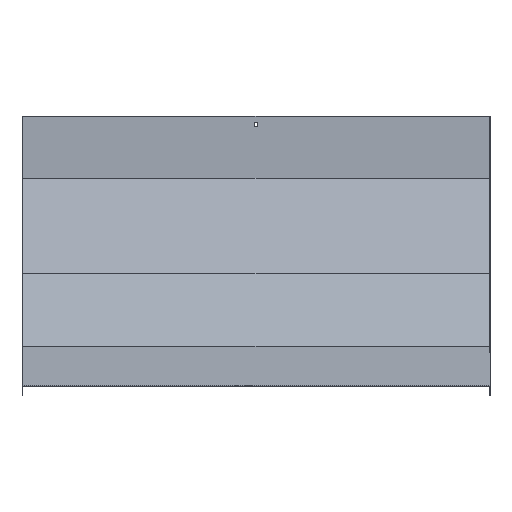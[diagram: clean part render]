
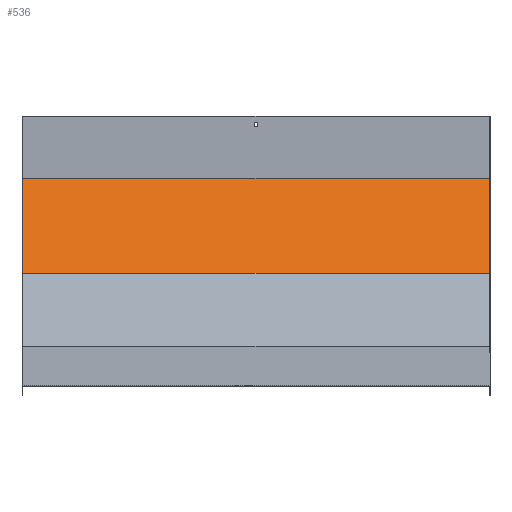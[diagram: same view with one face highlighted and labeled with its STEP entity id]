
A CAD part, top view. The second image highlights one B-rep face of the part: STEP entity #536.
In plain terms, the highlighted planar face has unit normal (0, 0.383, 0.924).
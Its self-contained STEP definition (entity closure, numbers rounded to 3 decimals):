
#100 = DIRECTION ( 'NONE',  ( 0., 0.924, -0.383 ) ) ;
#106 = DIRECTION ( 'NONE',  ( 0., -0.924, 0.383 ) ) ;
#132 = DIRECTION ( 'NONE',  ( -1., 0., 0. ) ) ;
#191 = VECTOR ( 'NONE', #100, 1000. ) ;
#197 = PLANE ( 'NONE',  #362 ) ;
#204 = ORIENTED_EDGE ( 'NONE', *, *, #843, .T. ) ;
#224 = LINE ( 'NONE', #1064, #311 ) ;
#227 = VECTOR ( 'NONE', #630, 1000. ) ;
#280 = CARTESIAN_POINT ( 'NONE',  ( 451.5, 400.72, -520.72 ) ) ;
#311 = VECTOR ( 'NONE', #132, 1000. ) ;
#337 = ORIENTED_EDGE ( 'NONE', *, *, #529, .F. ) ;
#348 = EDGE_CURVE ( 'NONE', #448, #488, #224, .T. ) ;
#362 = AXIS2_PLACEMENT_3D ( 'NONE', #1037, #880, #106 ) ;
#366 = FACE_OUTER_BOUND ( 'NONE', #1075, .T. ) ;
#407 = EDGE_CURVE ( 'NONE', #877, #488, #533, .T. ) ;
#441 = CARTESIAN_POINT ( 'NONE',  ( -451.5, 400.72, -520.72 ) ) ;
#448 = VERTEX_POINT ( 'NONE', #280 ) ;
#488 = VERTEX_POINT ( 'NONE', #441 ) ;
#529 = EDGE_CURVE ( 'NONE', #531, #877, #540, .T. ) ;
#531 = VERTEX_POINT ( 'NONE', #792 ) ;
#533 = LINE ( 'NONE', #864, #191 ) ;
#536 = ADVANCED_FACE ( 'NONE', ( #366 ), #197, .T. ) ;
#540 = LINE ( 'NONE', #876, #227 ) ;
#612 = ORIENTED_EDGE ( 'NONE', *, *, #348, .T. ) ;
#630 = DIRECTION ( 'NONE',  ( -1., 0., 0. ) ) ;
#658 = CARTESIAN_POINT ( 'NONE',  ( 451.5, 216.868, -444.566 ) ) ;
#744 = LINE ( 'NONE', #658, #754 ) ;
#754 = VECTOR ( 'NONE', #1088, 1000. ) ;
#772 = ORIENTED_EDGE ( 'NONE', *, *, #407, .F. ) ;
#792 = CARTESIAN_POINT ( 'NONE',  ( 451.5, 216.868, -444.566 ) ) ;
#843 = EDGE_CURVE ( 'NONE', #531, #448, #744, .T. ) ;
#864 = CARTESIAN_POINT ( 'NONE',  ( -451.5, 216.868, -444.566 ) ) ;
#876 = CARTESIAN_POINT ( 'NONE',  ( 451.5, 216.868, -444.566 ) ) ;
#877 = VERTEX_POINT ( 'NONE', #1080 ) ;
#880 = DIRECTION ( 'NONE',  ( 0., 0.383, 0.924 ) ) ;
#1037 = CARTESIAN_POINT ( 'NONE',  ( 451.5, 216.868, -444.566 ) ) ;
#1064 = CARTESIAN_POINT ( 'NONE',  ( 451.5, 400.72, -520.72 ) ) ;
#1075 = EDGE_LOOP ( 'NONE', ( #772, #337, #204, #612 ) ) ;
#1080 = CARTESIAN_POINT ( 'NONE',  ( -451.5, 216.868, -444.566 ) ) ;
#1088 = DIRECTION ( 'NONE',  ( 0., 0.924, -0.383 ) ) ;
